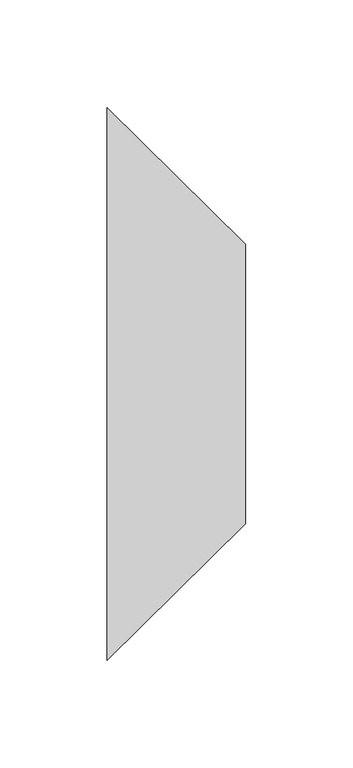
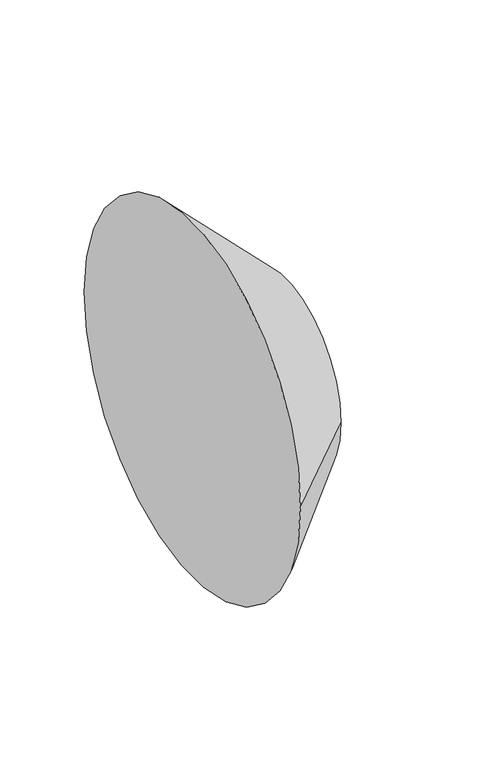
"""IFC4 building model written with IfcOpenShell, lengths in millimetres: pipe fitting geometry, M_Transición - Genérica : Estándar."""

from ifc_helpers import new_model, si_unit, frame, origin, place, context, project, spatial, circle_curve, source, transform, mapped, element, save
from ifc_brep_helpers import plane_surface, spline_surface, advanced_brep


def pipe_fitting_20247dfb(model_context):
    return source(origin(), model_context, "Body", "AdvancedBrep", [
        advanced_brep(
        [(64.29375, -65.0886715, 0.0011722), (64.29375, 65.0863285, 0.0011722), (0.0, -128.5875, 0.0), (0.0, 128.5875, 0.0)],
        [
            (0, 1, circle_curve(frame((64.29375, -0.0011715, 0.0011722), z_axis=(1.0, 0.0, 0.0), x_axis=(0.0, 1.0, 0.0)), 65.0875)),
            (1, 0, circle_curve(frame((64.29375, -0.0011715, 0.0011722), z_axis=(1.0, 0.0, 0.0), x_axis=(0.0, 1.0, 0.0)), 65.0875)),
            (2, 3, circle_curve(frame((0.0, 0.0, 0.0), z_axis=(-1.0, 0.0, 0.0), x_axis=(0.0, 1.0, 0.0)), 128.5875)),
            (3, 2, circle_curve(frame((0.0, 0.0, 0.0), z_axis=(-1.0, 0.0, 0.0), x_axis=(0.0, 1.0, 0.0)), 128.5875)),
            (3, 1),
            (0, 2),
        ],
        [
            plane_surface(frame((64.29375, -0.0011715, 0.0011722), z_axis=(1.0, 0.0, 0.0), x_axis=(0.0, 0.0, -1.0))),
            plane_surface(frame((0.0, 0.0, 0.0), z_axis=(-1.0, 0.0, 0.0), x_axis=(0.0, 0.0, -1.0))),
            spline_surface(2, 1, [[(0.0, -128.5875, 0.0), (64.29375, -65.0886715, 0.0011722)], [(0.0, -128.5875, -128.5875), (64.29375, -65.0886715, -65.0863278)], [(0.0, 0.0, -128.5875), (64.29375, -0.0011715, -65.0863278)], [(0.0, 128.5875, -128.5875), (64.29375, 65.08632850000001, -65.0863278)], [(0.0, 128.5875, 0.0), (64.29375, 65.0863285, 0.0011722)]], [3, 2, 3], [2, 2], [0.0, 1.0, 2.0], [0.0, 1.0], weights=[[1.0, 1.0], [0.7071067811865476, 0.7071067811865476], [1.0, 1.0], [0.7071067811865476, 0.7071067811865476], [1.0, 1.0]]),
            spline_surface(2, 1, [[(0.0, 128.5875, 0.0), (64.29375, 65.0863285, 0.0011722)], [(0.0, 128.5875, 128.5875), (64.29375, 65.0863285, 65.08867219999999)], [(0.0, 0.0, 128.5875), (64.29375, -0.0011715, 65.08867219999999)], [(0.0, -128.5875, 128.5875), (64.29375, -65.08867149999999, 65.08867219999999)], [(0.0, -128.5875, 0.0), (64.29375, -65.0886715, 0.0011722)]], [3, 2, 3], [2, 2], [0.0, 1.0, 2.0], [0.0, 1.0], weights=[[1.0, 1.0], [0.7071067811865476, 0.7071067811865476], [1.0, 1.0], [0.7071067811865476, 0.7071067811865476], [1.0, 1.0]]),
        ],
        [
            (0, [[1, 2]]),
            (1, [[3, 4]]),
            (2, [[-4, 5, -1, 6]]),
            (3, [[-3, -6, -2, -5]]),
        ],
    ),
    ])


if __name__ == "__main__":
    model = new_model("IFC4")
    model_context = context("Model", 3, world=origin())
    ifc_project = project(units=[si_unit("LENGTHUNIT", "METRE", prefix="MILLI")], contexts=[model_context])
    site = spatial("IfcSite", under=ifc_project)
    building = spatial("IfcBuilding", under=site)
    placement = place(None, origin())
    pipe_fitting_shape = pipe_fitting_20247dfb(model_context)
    element("IfcPipeFitting", 1, ObjectType="M_Transición - Genérica : Estándar", at=placement, inside=building, context=model_context, shape_type="MappedRepresentation", body=[
        mapped(pipe_fitting_shape, transform((0.0, 0.0, 0.0), x_axis=(1.0, 0.0, 0.0), y_axis=(0.0, 1.0, 0.0), z_axis=(0.0, 0.0, 1.0))),
    ])
    save(model, "model.ifc")
